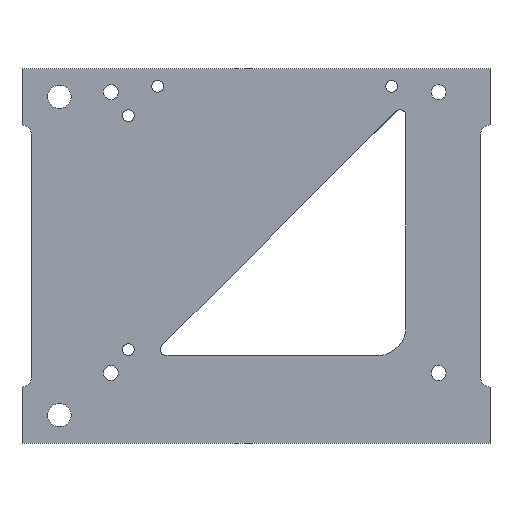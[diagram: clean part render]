
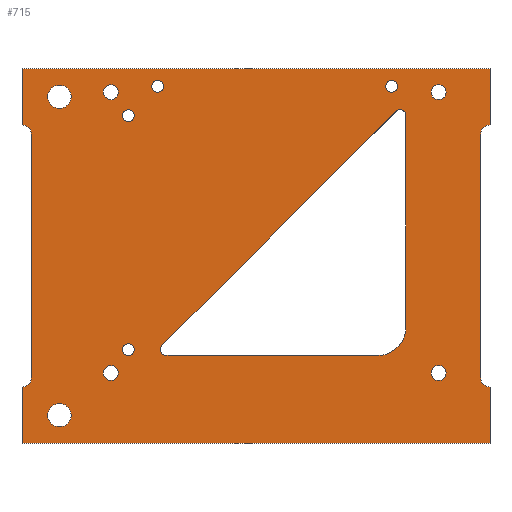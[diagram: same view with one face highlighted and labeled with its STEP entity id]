
A CAD part, front view. The second image highlights one B-rep face of the part: STEP entity #715.
In plain terms, the highlighted planar face has unit normal (0, -1, 0).
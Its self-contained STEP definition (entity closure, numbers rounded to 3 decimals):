
#22=FACE_BOUND('',#122,.T.);
#23=FACE_BOUND('',#123,.T.);
#24=FACE_BOUND('',#124,.T.);
#25=FACE_BOUND('',#125,.T.);
#26=FACE_BOUND('',#126,.T.);
#27=FACE_BOUND('',#127,.T.);
#28=FACE_BOUND('',#128,.T.);
#29=FACE_BOUND('',#129,.T.);
#30=FACE_BOUND('',#130,.T.);
#31=FACE_BOUND('',#131,.T.);
#32=FACE_BOUND('',#132,.T.);
#48=PLANE('',#800);
#81=FACE_OUTER_BOUND('',#121,.T.);
#121=EDGE_LOOP('',(#638,#639,#640,#641,#642,#643,#644,#645,#646,#647,#648,
#649));
#122=EDGE_LOOP('',(#650));
#123=EDGE_LOOP('',(#651));
#124=EDGE_LOOP('',(#652,#653,#654,#655,#656,#657));
#125=EDGE_LOOP('',(#658));
#126=EDGE_LOOP('',(#659));
#127=EDGE_LOOP('',(#660));
#128=EDGE_LOOP('',(#661));
#129=EDGE_LOOP('',(#662));
#130=EDGE_LOOP('',(#663));
#131=EDGE_LOOP('',(#664));
#132=EDGE_LOOP('',(#665));
#159=LINE('',#1107,#222);
#163=LINE('',#1116,#226);
#166=LINE('',#1124,#229);
#176=LINE('',#1163,#239);
#180=LINE('',#1172,#243);
#183=LINE('',#1180,#246);
#185=LINE('',#1184,#248);
#187=LINE('',#1188,#250);
#190=LINE('',#1196,#253);
#193=LINE('',#1204,#256);
#195=LINE('',#1207,#258);
#222=VECTOR('',#889,10.);
#226=VECTOR('',#899,10.);
#229=VECTOR('',#908,10.);
#239=VECTOR('',#956,10.);
#243=VECTOR('',#966,10.);
#246=VECTOR('',#975,10.);
#248=VECTOR('',#979,10.);
#250=VECTOR('',#983,10.);
#253=VECTOR('',#992,10.);
#256=VECTOR('',#1001,10.);
#258=VECTOR('',#1005,10.);
#259=CIRCLE('',#731,0.625);
#262=CIRCLE('',#735,0.625);
#282=CIRCLE('',#761,0.625);
#283=CIRCLE('',#764,3.);
#284=CIRCLE('',#767,0.625);
#285=CIRCLE('',#769,0.625);
#286=CIRCLE('',#771,0.625);
#287=CIRCLE('',#773,0.8);
#288=CIRCLE('',#775,1.25);
#289=CIRCLE('',#777,0.8);
#290=CIRCLE('',#779,1.25);
#291=CIRCLE('',#781,0.8);
#292=CIRCLE('',#783,0.8);
#293=CIRCLE('',#786,1.);
#294=CIRCLE('',#789,1.);
#295=CIRCLE('',#794,1.);
#296=CIRCLE('',#797,1.);
#297=VERTEX_POINT('',#1010);
#300=VERTEX_POINT('',#1018);
#337=VERTEX_POINT('',#1105);
#338=VERTEX_POINT('',#1106);
#339=VERTEX_POINT('',#1111);
#340=VERTEX_POINT('',#1115);
#341=VERTEX_POINT('',#1119);
#342=VERTEX_POINT('',#1123);
#343=VERTEX_POINT('',#1129);
#344=VERTEX_POINT('',#1133);
#345=VERTEX_POINT('',#1137);
#346=VERTEX_POINT('',#1141);
#347=VERTEX_POINT('',#1145);
#348=VERTEX_POINT('',#1149);
#349=VERTEX_POINT('',#1153);
#350=VERTEX_POINT('',#1157);
#351=VERTEX_POINT('',#1161);
#352=VERTEX_POINT('',#1162);
#353=VERTEX_POINT('',#1167);
#354=VERTEX_POINT('',#1171);
#355=VERTEX_POINT('',#1175);
#356=VERTEX_POINT('',#1179);
#357=VERTEX_POINT('',#1183);
#358=VERTEX_POINT('',#1187);
#359=VERTEX_POINT('',#1191);
#360=VERTEX_POINT('',#1195);
#361=VERTEX_POINT('',#1199);
#362=VERTEX_POINT('',#1203);
#363=EDGE_CURVE('',#297,#297,#259,.T.);
#367=EDGE_CURVE('',#300,#300,#262,.T.);
#412=EDGE_CURVE('',#337,#338,#159,.T.);
#415=EDGE_CURVE('',#339,#337,#282,.T.);
#417=EDGE_CURVE('',#340,#339,#163,.T.);
#419=EDGE_CURVE('',#341,#340,#283,.T.);
#421=EDGE_CURVE('',#342,#341,#166,.T.);
#423=EDGE_CURVE('',#338,#342,#284,.T.);
#425=EDGE_CURVE('',#343,#343,#285,.T.);
#427=EDGE_CURVE('',#344,#344,#286,.T.);
#429=EDGE_CURVE('',#345,#345,#287,.T.);
#431=EDGE_CURVE('',#346,#346,#288,.T.);
#433=EDGE_CURVE('',#347,#347,#289,.T.);
#435=EDGE_CURVE('',#348,#348,#290,.T.);
#437=EDGE_CURVE('',#349,#349,#291,.T.);
#439=EDGE_CURVE('',#350,#350,#292,.T.);
#440=EDGE_CURVE('',#351,#352,#176,.T.);
#443=EDGE_CURVE('',#351,#353,#293,.T.);
#445=EDGE_CURVE('',#353,#354,#180,.T.);
#447=EDGE_CURVE('',#354,#355,#294,.T.);
#449=EDGE_CURVE('',#355,#356,#183,.T.);
#451=EDGE_CURVE('',#356,#357,#185,.T.);
#453=EDGE_CURVE('',#357,#358,#187,.T.);
#455=EDGE_CURVE('',#358,#359,#295,.T.);
#457=EDGE_CURVE('',#360,#359,#190,.T.);
#459=EDGE_CURVE('',#360,#361,#296,.T.);
#461=EDGE_CURVE('',#362,#361,#193,.T.);
#463=EDGE_CURVE('',#352,#362,#195,.T.);
#638=ORIENTED_EDGE('',*,*,#463,.F.);
#639=ORIENTED_EDGE('',*,*,#440,.F.);
#640=ORIENTED_EDGE('',*,*,#443,.T.);
#641=ORIENTED_EDGE('',*,*,#445,.T.);
#642=ORIENTED_EDGE('',*,*,#447,.T.);
#643=ORIENTED_EDGE('',*,*,#449,.T.);
#644=ORIENTED_EDGE('',*,*,#451,.T.);
#645=ORIENTED_EDGE('',*,*,#453,.T.);
#646=ORIENTED_EDGE('',*,*,#455,.T.);
#647=ORIENTED_EDGE('',*,*,#457,.F.);
#648=ORIENTED_EDGE('',*,*,#459,.T.);
#649=ORIENTED_EDGE('',*,*,#461,.F.);
#650=ORIENTED_EDGE('',*,*,#363,.T.);
#651=ORIENTED_EDGE('',*,*,#367,.T.);
#652=ORIENTED_EDGE('',*,*,#415,.F.);
#653=ORIENTED_EDGE('',*,*,#417,.F.);
#654=ORIENTED_EDGE('',*,*,#419,.F.);
#655=ORIENTED_EDGE('',*,*,#421,.F.);
#656=ORIENTED_EDGE('',*,*,#423,.F.);
#657=ORIENTED_EDGE('',*,*,#412,.F.);
#658=ORIENTED_EDGE('',*,*,#427,.F.);
#659=ORIENTED_EDGE('',*,*,#425,.F.);
#660=ORIENTED_EDGE('',*,*,#439,.F.);
#661=ORIENTED_EDGE('',*,*,#437,.F.);
#662=ORIENTED_EDGE('',*,*,#435,.F.);
#663=ORIENTED_EDGE('',*,*,#433,.F.);
#664=ORIENTED_EDGE('',*,*,#431,.F.);
#665=ORIENTED_EDGE('',*,*,#429,.F.);
#715=ADVANCED_FACE('',(#81,#22,#23,#24,#25,#26,#27,#28,#29,#30,#31,#32),
#48,.F.);
#731=AXIS2_PLACEMENT_3D('',#1011,#805,#806);
#735=AXIS2_PLACEMENT_3D('',#1019,#814,#815);
#761=AXIS2_PLACEMENT_3D('',#1112,#894,#895);
#764=AXIS2_PLACEMENT_3D('',#1120,#903,#904);
#767=AXIS2_PLACEMENT_3D('',#1127,#912,#913);
#769=AXIS2_PLACEMENT_3D('',#1131,#917,#918);
#771=AXIS2_PLACEMENT_3D('',#1135,#922,#923);
#773=AXIS2_PLACEMENT_3D('',#1139,#927,#928);
#775=AXIS2_PLACEMENT_3D('',#1143,#932,#933);
#777=AXIS2_PLACEMENT_3D('',#1147,#937,#938);
#779=AXIS2_PLACEMENT_3D('',#1151,#942,#943);
#781=AXIS2_PLACEMENT_3D('',#1155,#947,#948);
#783=AXIS2_PLACEMENT_3D('',#1159,#952,#953);
#786=AXIS2_PLACEMENT_3D('',#1168,#961,#962);
#789=AXIS2_PLACEMENT_3D('',#1176,#970,#971);
#794=AXIS2_PLACEMENT_3D('',#1192,#987,#988);
#797=AXIS2_PLACEMENT_3D('',#1200,#996,#997);
#800=AXIS2_PLACEMENT_3D('',#1208,#1006,#1007);
#805=DIRECTION('center_axis',(0.,1.,0.));
#806=DIRECTION('ref_axis',(1.,0.,0.));
#814=DIRECTION('center_axis',(0.,1.,0.));
#815=DIRECTION('ref_axis',(1.,0.,0.));
#889=DIRECTION('',(-0.707,0.,-0.707));
#894=DIRECTION('center_axis',(0.,-1.,0.));
#895=DIRECTION('ref_axis',(-0.707,0.,0.707));
#899=DIRECTION('',(0.,0.,1.));
#903=DIRECTION('center_axis',(0.,-1.,0.));
#904=DIRECTION('ref_axis',(1.,0.,0.));
#908=DIRECTION('',(1.,0.,0.));
#912=DIRECTION('center_axis',(0.,-1.,0.));
#913=DIRECTION('ref_axis',(0.,0.,-1.));
#917=DIRECTION('center_axis',(0.,-1.,0.));
#918=DIRECTION('ref_axis',(1.,0.,0.));
#922=DIRECTION('center_axis',(0.,-1.,0.));
#923=DIRECTION('ref_axis',(1.,0.,0.));
#927=DIRECTION('center_axis',(0.,-1.,0.));
#928=DIRECTION('ref_axis',(1.,0.,0.));
#932=DIRECTION('center_axis',(0.,-1.,0.));
#933=DIRECTION('ref_axis',(1.,0.,0.));
#937=DIRECTION('center_axis',(0.,-1.,0.));
#938=DIRECTION('ref_axis',(1.,0.,0.));
#942=DIRECTION('center_axis',(0.,-1.,0.));
#943=DIRECTION('ref_axis',(1.,0.,0.));
#947=DIRECTION('center_axis',(0.,-1.,0.));
#948=DIRECTION('ref_axis',(1.,0.,0.));
#952=DIRECTION('center_axis',(0.,-1.,0.));
#953=DIRECTION('ref_axis',(1.,0.,0.));
#956=DIRECTION('',(0.,0.,1.));
#961=DIRECTION('center_axis',(0.,1.,0.));
#962=DIRECTION('ref_axis',(0.,0.,1.));
#966=DIRECTION('',(0.,0.,-1.));
#970=DIRECTION('center_axis',(0.,1.,0.));
#971=DIRECTION('ref_axis',(1.,0.,0.));
#975=DIRECTION('',(0.,0.,-1.));
#979=DIRECTION('',(1.,0.,0.));
#983=DIRECTION('',(0.,0.,1.));
#987=DIRECTION('center_axis',(0.,1.,0.));
#988=DIRECTION('ref_axis',(0.,0.,-1.));
#992=DIRECTION('',(0.,0.,-1.));
#996=DIRECTION('center_axis',(0.,1.,0.));
#997=DIRECTION('ref_axis',(-1.,0.,0.));
#1001=DIRECTION('',(0.,0.,-1.));
#1005=DIRECTION('',(1.,0.,0.));
#1006=DIRECTION('center_axis',(0.,1.,0.));
#1007=DIRECTION('ref_axis',(1.,0.,0.));
#1010=CARTESIAN_POINT('',(-13.125,0.,15.625));
#1011=CARTESIAN_POINT('Origin',(-12.5,0.,15.625));
#1018=CARTESIAN_POINT('',(11.875,0.,15.625));
#1019=CARTESIAN_POINT('Origin',(12.5,0.,15.625));
#1105=CARTESIAN_POINT('',(12.942,0.,12.942));
#1106=CARTESIAN_POINT('',(-12.058,0.,-12.058));
#1107=CARTESIAN_POINT('',(15.,0.,15.));
#1111=CARTESIAN_POINT('',(14.009,0.,12.5));
#1112=CARTESIAN_POINT('Origin',(13.384,0.,12.5));
#1115=CARTESIAN_POINT('',(14.009,0.,-10.125));
#1116=CARTESIAN_POINT('',(14.009,0.,-10.125));
#1119=CARTESIAN_POINT('',(11.009,0.,-13.125));
#1120=CARTESIAN_POINT('Origin',(11.009,0.,-10.125));
#1123=CARTESIAN_POINT('',(-11.616,0.,-13.125));
#1124=CARTESIAN_POINT('',(-11.616,0.,-13.125));
#1127=CARTESIAN_POINT('Origin',(-11.616,0.,-12.5));
#1129=CARTESIAN_POINT('',(-16.25,0.,12.5));
#1131=CARTESIAN_POINT('Origin',(-15.625,0.,12.5));
#1133=CARTESIAN_POINT('',(-16.25,0.,-12.5));
#1135=CARTESIAN_POINT('Origin',(-15.625,0.,-12.5));
#1137=CARTESIAN_POINT('',(-18.3,0.,15.));
#1139=CARTESIAN_POINT('Origin',(-17.5,0.,15.));
#1141=CARTESIAN_POINT('',(-24.25,0.,14.5));
#1143=CARTESIAN_POINT('Origin',(-23.,0.,14.5));
#1145=CARTESIAN_POINT('',(16.7,0.,-15.));
#1147=CARTESIAN_POINT('Origin',(17.5,0.,-15.));
#1149=CARTESIAN_POINT('',(-24.25,0.,-19.5));
#1151=CARTESIAN_POINT('Origin',(-23.,0.,-19.5));
#1153=CARTESIAN_POINT('',(16.7,0.,15.));
#1155=CARTESIAN_POINT('Origin',(17.5,0.,15.));
#1157=CARTESIAN_POINT('',(-18.3,0.,-15.));
#1159=CARTESIAN_POINT('Origin',(-17.5,0.,-15.));
#1161=CARTESIAN_POINT('',(-27.,0.,11.5));
#1162=CARTESIAN_POINT('',(-27.,0.,17.5));
#1163=CARTESIAN_POINT('',(-27.,0.,11.5));
#1167=CARTESIAN_POINT('',(-26.,0.,10.5));
#1168=CARTESIAN_POINT('Origin',(-27.,0.,10.5));
#1171=CARTESIAN_POINT('',(-26.,0.,-15.5));
#1172=CARTESIAN_POINT('',(-26.,0.,10.5));
#1175=CARTESIAN_POINT('',(-27.,0.,-16.5));
#1176=CARTESIAN_POINT('Origin',(-27.,0.,-15.5));
#1179=CARTESIAN_POINT('',(-27.,0.,-22.5));
#1180=CARTESIAN_POINT('',(-27.,0.,-16.5));
#1183=CARTESIAN_POINT('',(23.,0.,-22.5));
#1184=CARTESIAN_POINT('',(-27.,0.,-22.5));
#1187=CARTESIAN_POINT('',(23.,0.,-16.5));
#1188=CARTESIAN_POINT('',(23.,0.,-22.5));
#1191=CARTESIAN_POINT('',(22.,0.,-15.5));
#1192=CARTESIAN_POINT('Origin',(23.,0.,-15.5));
#1195=CARTESIAN_POINT('',(22.,0.,10.5));
#1196=CARTESIAN_POINT('',(22.,0.,10.5));
#1199=CARTESIAN_POINT('',(23.,0.,11.5));
#1200=CARTESIAN_POINT('Origin',(23.,0.,10.5));
#1203=CARTESIAN_POINT('',(23.,0.,17.5));
#1204=CARTESIAN_POINT('',(23.,0.,17.5));
#1207=CARTESIAN_POINT('',(-27.,0.,17.5));
#1208=CARTESIAN_POINT('Origin',(-2.,0.,-2.5));
